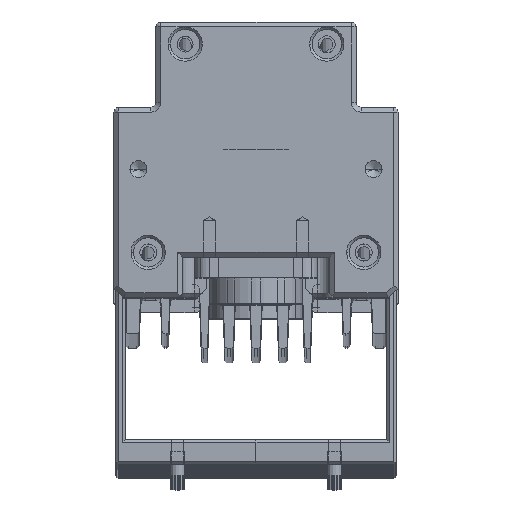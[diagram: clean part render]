
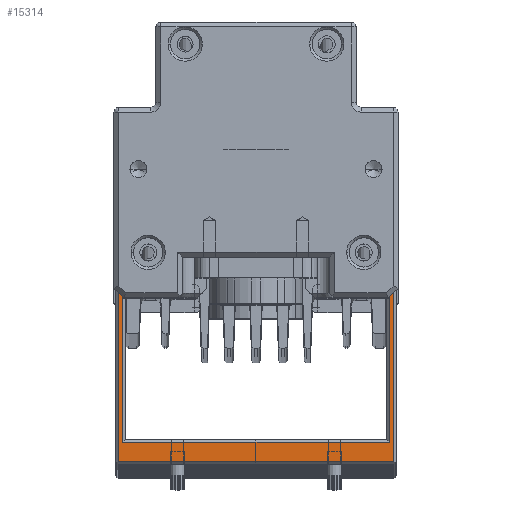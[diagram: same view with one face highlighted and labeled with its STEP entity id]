
A CAD part, top view. The second image highlights one B-rep face of the part: STEP entity #15314.
In plain terms, the highlighted planar face has unit normal (0, 0, 1).
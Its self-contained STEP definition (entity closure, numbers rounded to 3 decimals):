
#14239=DIRECTION('',(-1.,0.,0.));
#14240=VECTOR('',#14239,5.15);
#14241=CARTESIAN_POINT('',(28.15,-20.6,22.));
#14242=LINE('',#14241,#14240);
#14243=DIRECTION('',(0.,1.,0.));
#14244=VECTOR('',#14243,40.5);
#14245=CARTESIAN_POINT('',(28.15,-61.1,22.));
#14246=LINE('',#14245,#14244);
#14247=DIRECTION('',(1.,0.,0.));
#14248=VECTOR('',#14247,56.3);
#14249=CARTESIAN_POINT('',(-28.15,-61.1,22.));
#14250=LINE('',#14249,#14248);
#14251=DIRECTION('',(0.,-1.,0.));
#14252=VECTOR('',#14251,40.5);
#14253=CARTESIAN_POINT('',(-28.15,-20.6,22.));
#14254=LINE('',#14253,#14252);
#14255=DIRECTION('',(-1.,0.,0.));
#14256=VECTOR('',#14255,5.15);
#14257=CARTESIAN_POINT('',(-23.,-20.6,22.));
#14258=LINE('',#14257,#14256);
#14259=DIRECTION('',(0.,1.,0.));
#14260=VECTOR('',#14259,1.);
#14261=CARTESIAN_POINT('',(-23.,-21.6,22.));
#14262=LINE('',#14261,#14260);
#14263=DIRECTION('',(1.,0.,0.));
#14264=VECTOR('',#14263,4.15);
#14265=CARTESIAN_POINT('',(-27.15,-21.6,22.));
#14266=LINE('',#14265,#14264);
#14267=DIRECTION('',(0.,1.,0.));
#14268=VECTOR('',#14267,35.5);
#14269=CARTESIAN_POINT('',(-27.15,-57.1,22.));
#14270=LINE('',#14269,#14268);
#14271=DIRECTION('',(-1.,0.,0.));
#14272=VECTOR('',#14271,54.3);
#14273=CARTESIAN_POINT('',(27.15,-57.1,22.));
#14274=LINE('',#14273,#14272);
#14275=DIRECTION('',(0.,-1.,0.));
#14276=VECTOR('',#14275,35.5);
#14277=CARTESIAN_POINT('',(27.15,-21.6,22.));
#14278=LINE('',#14277,#14276);
#14279=DIRECTION('',(1.,0.,0.));
#14280=VECTOR('',#14279,4.15);
#14281=CARTESIAN_POINT('',(23.,-21.6,22.));
#14282=LINE('',#14281,#14280);
#14283=DIRECTION('',(0.,-1.,0.));
#14284=VECTOR('',#14283,1.);
#14285=CARTESIAN_POINT('',(23.,-20.6,22.));
#14286=LINE('',#14285,#14284);
#14645=CARTESIAN_POINT('',(23.,-20.6,22.));
#14647=VERTEX_POINT('',#14645);
#14649=CARTESIAN_POINT('',(28.15,-20.6,22.));
#14650=VERTEX_POINT('',#14649);
#14651=CARTESIAN_POINT('',(28.15,-61.1,22.));
#14652=VERTEX_POINT('',#14651);
#14685=CARTESIAN_POINT('',(-23.,-21.6,22.));
#14687=VERTEX_POINT('',#14685);
#14691=CARTESIAN_POINT('',(-27.15,-21.6,22.));
#14692=VERTEX_POINT('',#14691);
#14695=CARTESIAN_POINT('',(-27.15,-57.1,22.));
#14696=VERTEX_POINT('',#14695);
#14701=CARTESIAN_POINT('',(27.15,-21.6,22.));
#14702=CARTESIAN_POINT('',(27.15,-57.1,22.));
#14703=VERTEX_POINT('',#14701);
#14704=VERTEX_POINT('',#14702);
#14706=CARTESIAN_POINT('',(23.,-21.6,22.));
#14708=VERTEX_POINT('',#14706);
#14709=CARTESIAN_POINT('',(-28.15,-20.6,22.));
#14710=CARTESIAN_POINT('',(-28.15,-61.1,22.));
#14711=VERTEX_POINT('',#14709);
#14712=VERTEX_POINT('',#14710);
#14714=CARTESIAN_POINT('',(-23.,-20.6,22.));
#14716=VERTEX_POINT('',#14714);
#15286=CARTESIAN_POINT('',(0.,0.,22.));
#15287=DIRECTION('',(0.,0.,1.));
#15288=DIRECTION('',(-1.,0.,0.));
#15289=AXIS2_PLACEMENT_3D('',#15286,#15287,#15288);
#15290=PLANE('',#15289);
#15292=ORIENTED_EDGE('',*,*,#15291,.F.);
#15294=ORIENTED_EDGE('',*,*,#15293,.F.);
#15296=ORIENTED_EDGE('',*,*,#15295,.F.);
#15297=ORIENTED_EDGE('',*,*,#15250,.F.);
#15298=ORIENTED_EDGE('',*,*,#15268,.F.);
#15299=ORIENTED_EDGE('',*,*,#15005,.F.);
#15301=ORIENTED_EDGE('',*,*,#15300,.F.);
#15303=ORIENTED_EDGE('',*,*,#15302,.F.);
#15305=ORIENTED_EDGE('',*,*,#15304,.F.);
#15307=ORIENTED_EDGE('',*,*,#15306,.F.);
#15309=ORIENTED_EDGE('',*,*,#15308,.F.);
#15311=ORIENTED_EDGE('',*,*,#15310,.F.);
#15312=EDGE_LOOP('',(#15292,#15294,#15296,#15297,#15298,#15299,#15301,#15303,
#15305,#15307,#15309,#15311));
#15313=FACE_OUTER_BOUND('',#15312,.F.);
#15005=EDGE_CURVE('',#14687,#14716,#14262,.T.);
#15250=EDGE_CURVE('',#14711,#14712,#14254,.T.);
#15268=EDGE_CURVE('',#14716,#14711,#14258,.T.);
#15291=EDGE_CURVE('',#14650,#14647,#14242,.T.);
#15293=EDGE_CURVE('',#14652,#14650,#14246,.T.);
#15295=EDGE_CURVE('',#14712,#14652,#14250,.T.);
#15300=EDGE_CURVE('',#14692,#14687,#14266,.T.);
#15302=EDGE_CURVE('',#14696,#14692,#14270,.T.);
#15304=EDGE_CURVE('',#14704,#14696,#14274,.T.);
#15306=EDGE_CURVE('',#14703,#14704,#14278,.T.);
#15308=EDGE_CURVE('',#14708,#14703,#14282,.T.);
#15310=EDGE_CURVE('',#14647,#14708,#14286,.T.);
#15314=ADVANCED_FACE('',(#15313),#15290,.T.);
